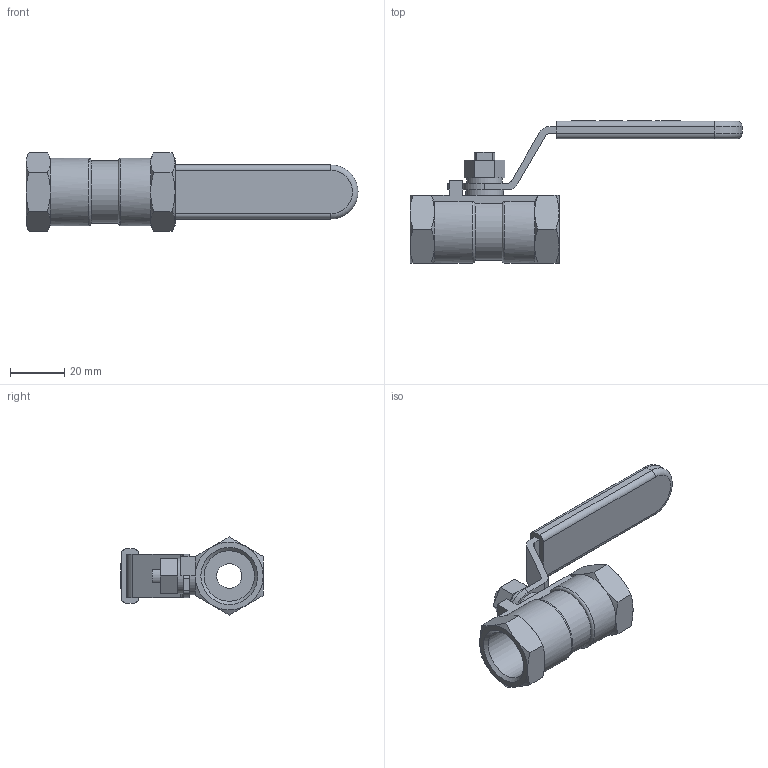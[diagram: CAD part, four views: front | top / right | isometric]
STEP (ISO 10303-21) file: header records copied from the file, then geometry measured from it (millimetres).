
FILE_DESCRIPTION(/* description */ ('Eriks item no: 12427435'),/* implementation_level */ '2;1');
FILE_NAME(/* name */ '7744-DN15-RB-1000PSI-BSP.stp',/* time_stamp */ '2024-02-16T09:50:11+01:00',/* author */ ('roger.thijssen'),/* organization */ (''),/* preprocessor_version */ 'ST-DEVELOPER v19.2',/* originating_system */ 'Autodesk Inventor 2024',/* authorisation */ '');
FILE_SCHEMA (('AUTOMOTIVE_DESIGN { 1 0 10303 214 3 1 1 }'));
Length unit declared in the file: millimetre
Products named in the file (1): Ball valve, 7744-DN15-RB-1000PSI-BSP
Bounding box: 122.5 x 52.5 x 28.87 mm (x, y, z)
Volume: 30108.4 mm3; surface area: 13607.6 mm2
Topology: 1 solids, 1 shells, 323 faces, 831 edges, 539 vertices
Faces by surface type: plane 232, cylinder 50, cone 26, bspline 11, torus 4
Full cylindrical faces by diameter (mm): 9.2 x1, 13 x1, 14 x1, 18.631 x2
Entity records: 10150 total; most frequent: CARTESIAN_POINT 2011, ORIENTED_EDGE 1662, DIRECTION 1511, EDGE_CURVE 831, LINE 613, VECTOR 613, VERTEX_POINT 539, AXIS2_PLACEMENT_3D 449
